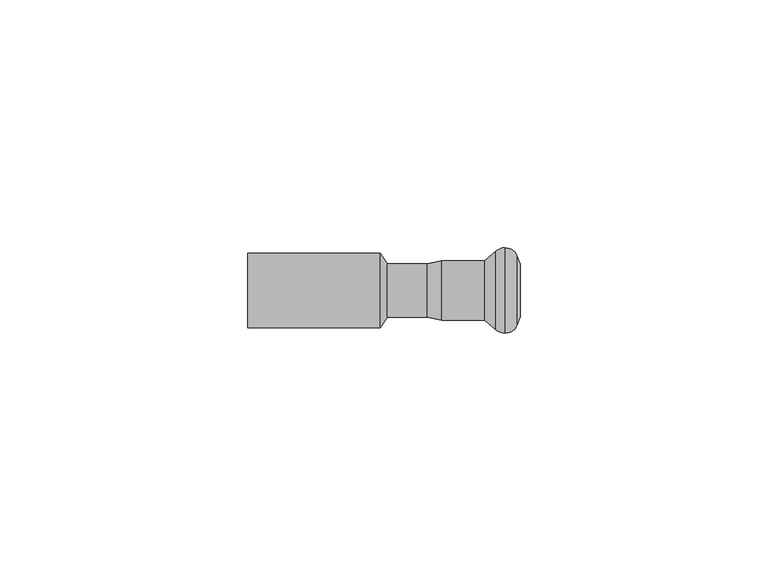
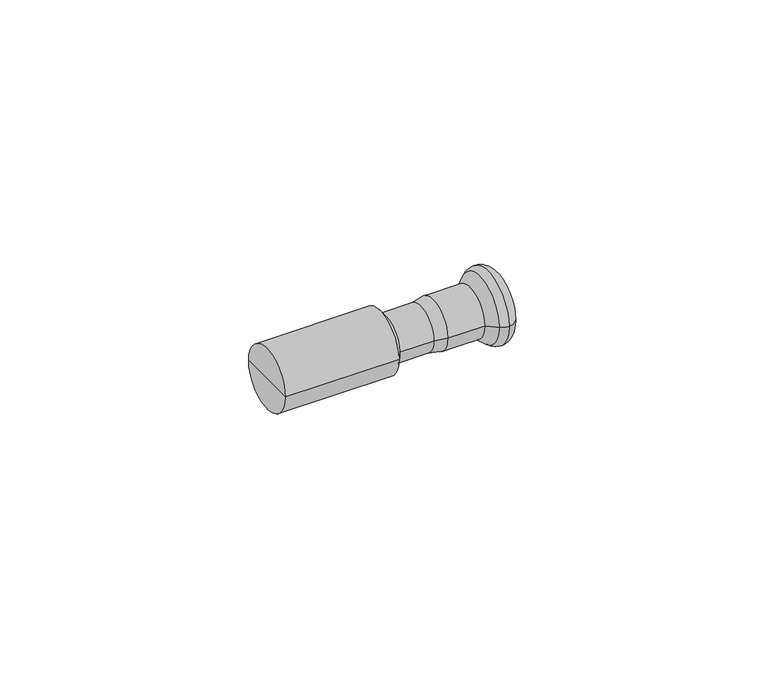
"""IFC4 building model written with IfcOpenShell, lengths in millimetres: pipe fitting geometry, KAN-therm Steel redukcja nyplowa : KAN-therm Steel redukcja nyplowa."""

from ifc_helpers import new_model, si_unit, point, frame, origin, place, context, project, spatial, polyline, circle_curve, ellipse_curve, trimmed, source, transform, mapped, element, save
from ifc_brep_helpers import plane_surface, cylinder_surface, revolved_surface, advanced_brep


def pipe_fitting_8b53cf8f(model_context):
    return source(origin(), model_context, "Body", "AdvancedBrep", [
        advanced_brep(
        [(50.0922627, -7.9370225, 0.0), (50.0922627, 7.9370225, 0.0), (51.8921278, 8.625, 0.0), (51.8921278, -8.625, 0.0), (47.7838092, -6.0, 0.0), (47.7838092, 6.0, 0.0), (39.1180407, -6.0, 0.0), (39.1180407, 6.0, 0.0), (36.2, -5.4, 0.0), (36.2, 5.4, 0.0), (28.2, -5.4, 0.0), (28.2, 5.4, 0.0), (55.0, -5.2880302, 0.0), (55.0, 5.2880302, 0.0), (55.0, 0.0, 0.0), (54.432052, -6.8484544, 0.0), (54.432052, 6.8484544, 0.0), (0.0, 0.0, 0.0), (0.0, 7.5, 0.0), (0.0, -7.5, 0.0), (26.7, -7.5, 0.0), (26.7, 7.5, 0.0)],
        [
            (0, 1, circle_curve(frame((50.0922627, 0.0, 0.0), z_axis=(1.0, 0.0, 0.0), x_axis=(0.0, 1.0, 0.0)), 7.9370225)),
            (1, 2, circle_curve(frame((51.8935049, 5.9230333, 0.0), z_axis=(0.0, 0.0, -1.0), x_axis=(1.0, 0.0, 0.0)), 2.701967)),
            (2, 3, circle_curve(frame((51.8921278, 0.0, 0.0), z_axis=(-1.0, 0.0, 0.0), x_axis=(0.0, 1.0, 0.0)), 8.625)),
            (3, 0, circle_curve(frame((51.8935049, -5.9230333, 0.0), z_axis=(0.0, 0.0, -1.0), x_axis=(1.0, 0.0, 0.0)), 2.701967)),
            (1, 0, circle_curve(frame((50.0922627, 0.0, 0.0), z_axis=(1.0, 0.0, 0.0), x_axis=(0.0, 1.0, 0.0)), 7.9370225)),
            (3, 2, circle_curve(frame((51.8921278, 0.0, 0.0), z_axis=(-1.0, 0.0, 0.0), x_axis=(0.0, 1.0, 0.0)), 8.625)),
            (4, 5, circle_curve(frame((47.7838092, 0.0, 0.0), z_axis=(1.0, 0.0, 0.0), x_axis=(0.0, 1.0, 0.0)), 6.0)),
            (5, 1),
            (0, 4),
            (5, 4, circle_curve(frame((47.7838092, 0.0, 0.0), z_axis=(1.0, 0.0, 0.0), x_axis=(0.0, 1.0, 0.0)), 6.0)),
            (6, 7, circle_curve(frame((39.1180407, 0.0, 0.0), z_axis=(1.0, 0.0, 0.0), x_axis=(0.0, 1.0, 0.0)), 6.0)),
            (7, 5),
            (4, 6),
            (7, 6, circle_curve(frame((39.1180407, 0.0, 0.0), z_axis=(1.0, 0.0, 0.0), x_axis=(0.0, 1.0, 0.0)), 6.0)),
            (8, 9, circle_curve(frame((36.2, 0.0, 0.0), z_axis=(1.0, 0.0, 0.0), x_axis=(0.0, 1.0, 0.0)), 5.4)),
            (9, 7),
            (6, 8),
            (9, 8, circle_curve(frame((36.2, 0.0, 0.0), z_axis=(1.0, 0.0, 0.0), x_axis=(0.0, 1.0, 0.0)), 5.4)),
            (10, 11, circle_curve(frame((28.2, 0.0, 0.0), z_axis=(1.0, 0.0, 0.0), x_axis=(0.0, 1.0, 0.0)), 5.4)),
            (11, 9),
            (8, 10),
            (11, 10, circle_curve(frame((28.2, 0.0, 0.0), z_axis=(1.0, 0.0, 0.0), x_axis=(0.0, 1.0, 0.0)), 5.4)),
            (12, 13, circle_curve(frame((55.0, 0.0, 0.0), z_axis=(1.0, 0.0, 0.0), x_axis=(0.0, 1.0, 0.0)), 5.2880302)),
            (13, 14),
            (14, 12),
            (13, 12, circle_curve(frame((55.0, 0.0, 0.0), z_axis=(1.0, 0.0, 0.0), x_axis=(0.0, 1.0, 0.0)), 5.2880302)),
            (15, 16, circle_curve(frame((54.432052, 0.0, 0.0), z_axis=(1.0, 0.0, 0.0), x_axis=(0.0, 1.0, 0.0)), 6.8484544)),
            (16, 13),
            (12, 15),
            (16, 15, circle_curve(frame((54.432052, 0.0, 0.0), z_axis=(1.0, 0.0, 0.0), x_axis=(0.0, 1.0, 0.0)), 6.8484544)),
            (2, 16, circle_curve(frame((51.89488, 5.9249993, 0.0), z_axis=(0.0, 0.0, -1.0), x_axis=(1.0, 0.0, 0.0)), 2.7000021)),
            (15, 3, circle_curve(frame((51.89488, -5.9249993, 0.0), z_axis=(0.0, 0.0, -1.0), x_axis=(1.0, 0.0, 0.0)), 2.7000021)),
            (17, 18),
            (18, 19, circle_curve(frame((0.0, 0.0, 0.0), z_axis=(-1.0, 0.0, 0.0), x_axis=(0.0, 1.0, 0.0)), 7.5)),
            (19, 17),
            (19, 18, circle_curve(frame((0.0, 0.0, 0.0), z_axis=(-1.0, 0.0, 0.0), x_axis=(0.0, 1.0, 0.0)), 7.5)),
            (20, 21, circle_curve(frame((26.7, 0.0, 0.0), z_axis=(1.0, 0.0, 0.0), x_axis=(0.0, 1.0, 0.0)), 7.5)),
            (21, 11),
            (10, 20),
            (21, 20, circle_curve(frame((26.7, 0.0, 0.0), z_axis=(1.0, 0.0, 0.0), x_axis=(0.0, 1.0, 0.0)), 7.5)),
            (18, 21),
            (20, 19),
        ],
        [
            revolved_surface(trimmed(ellipse_curve(frame((51.8935049, 5.9230333, 0.0), z_axis=(0.0, 0.0, 1.0), x_axis=(1.0, 0.0, 0.0)), 2.701967, 2.701967), [point((51.8921278, 8.625, 0.0))], [point((50.0922627, 7.9370225, 0.0))], True, "CARTESIAN"), (1368.742668, 0.0, 0.0), (-1.0, 0.0, 0.0)),
            revolved_surface(polyline([(50.0922627, 7.9370225, 0.0), (47.7838092, 6.0, 0.0)]), (1368.742668, 0.0, 0.0), (-1.0, 0.0, 0.0)),
            cylinder_surface(frame((1368.742668, 0.0, 0.0), z_axis=(-1.0, 0.0, 0.0), x_axis=(0.0, 1.0, 0.0)), 6.0),
            revolved_surface(polyline([(39.1180407, 6.0, 0.0), (36.2, 5.4, 0.0)]), (1368.742668, 0.0, 0.0), (-1.0, 0.0, 0.0)),
            cylinder_surface(frame((1368.742668, 0.0, 0.0), z_axis=(-1.0, 0.0, 0.0), x_axis=(0.0, 1.0, 0.0)), 5.4),
            plane_surface(frame((55.0, 0.0, 0.0), z_axis=(1.0, 0.0, 0.0), x_axis=(0.0, 1.0, 0.0))),
            revolved_surface(polyline([(55.0, 5.2880302, 0.0), (54.432052, 6.8484544, 0.0)]), (1368.742668, 0.0, 0.0), (-1.0, 0.0, 0.0)),
            revolved_surface(trimmed(ellipse_curve(frame((51.89488, 5.9249993, 0.0), z_axis=(0.0, 0.0, 1.0), x_axis=(1.0, 0.0, 0.0)), 2.7000021, 2.7000021), [point((54.432052, 6.8484544, 0.0))], [point((51.8921278, 8.625, 0.0))], True, "CARTESIAN"), (1368.742668, 0.0, 0.0), (-1.0, 0.0, 0.0)),
            plane_surface(frame((0.0, 0.0, 0.0), z_axis=(-1.0, 0.0, 0.0), x_axis=(0.0, 1.0, 0.0))),
            revolved_surface(polyline([(28.2, 5.4, 0.0), (26.7, 7.5, 0.0)]), (1368.742668, 0.0, 0.0), (-1.0, 0.0, 0.0)),
            cylinder_surface(frame((1368.742668, 0.0, 0.0), z_axis=(-1.0, 0.0, 0.0), x_axis=(0.0, 1.0, 0.0)), 7.5),
        ],
        [
            (0, [[1, 2, 3, 4]]),
            (0, [[5, -4, 6, -2]]),
            (1, [[7, 8, -1, 9]]),
            (1, [[10, -9, -5, -8]]),
            (2, [[11, 12, -7, 13]]),
            (2, [[14, -13, -10, -12]]),
            (3, [[15, 16, -11, 17]]),
            (3, [[18, -17, -14, -16]]),
            (4, [[19, 20, -15, 21]]),
            (4, [[22, -21, -18, -20]]),
            (5, [[23, 24, 25]]),
            (5, [[26, -25, -24]]),
            (6, [[27, 28, -23, 29]]),
            (6, [[30, -29, -26, -28]]),
            (7, [[-3, 31, -27, 32]]),
            (7, [[-6, -32, -30, -31]]),
            (8, [[33, 34, 35]]),
            (8, [[-35, 36, -33]]),
            (9, [[37, 38, -19, 39]]),
            (9, [[40, -39, -22, -38]]),
            (10, [[-34, 41, -37, 42]]),
            (10, [[-36, -42, -40, -41]]),
        ],
    ),
    ])


if __name__ == "__main__":
    model = new_model("IFC4")
    model_context = context("Model", 3, world=origin())
    ifc_project = project(units=[si_unit("LENGTHUNIT", "METRE", prefix="MILLI")], contexts=[model_context])
    site = spatial("IfcSite", under=ifc_project)
    building = spatial("IfcBuilding", under=site)
    placement = place(None, origin())
    pipe_fitting_shape = pipe_fitting_8b53cf8f(model_context)
    element("IfcPipeFitting", 1, ObjectType="KAN-therm Steel redukcja nyplowa : KAN-therm Steel redukcja nyplowa", at=placement, inside=building, context=model_context, shape_type="MappedRepresentation", body=[
        mapped(pipe_fitting_shape, transform((0.0, 0.0, 0.0), x_axis=(1.0, 0.0, 0.0), y_axis=(0.0, 1.0, 0.0), z_axis=(0.0, 0.0, 1.0))),
    ])
    save(model, "model.ifc")
